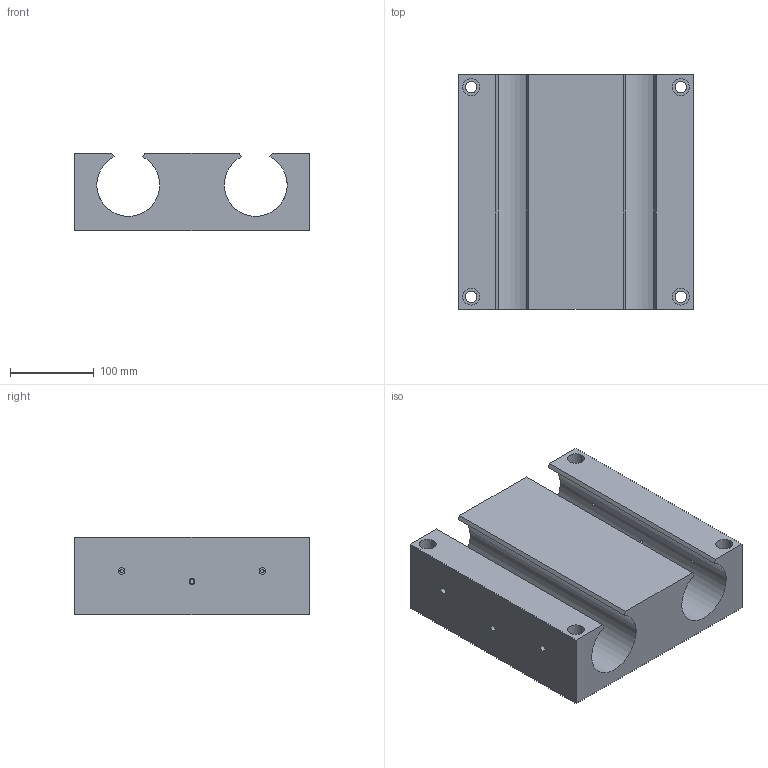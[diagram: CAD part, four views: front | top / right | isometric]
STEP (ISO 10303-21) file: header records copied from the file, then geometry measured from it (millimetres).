
FILE_DESCRIPTION (( 'STEP AP214' ), '1' );
FILE_NAME ('KQSO-50.step', '2020-03-04T13:36:16', ( '' ), ( '' ), 'SwSTEP 2.0', 'SolidWorks 2019', '' );
FILE_SCHEMA (( 'AUTOMOTIVE_DESIGN' ));
Length unit declared in the file: millimetre
Products named in the file (1): KQSO-50
Bounding box: 280 x 280 x 93 mm (x, y, z)
Volume: 4704017.4 mm3; surface area: 358477.9 mm2
Topology: 1 solids, 1 shells, 84 faces, 198 edges, 127 vertices
Faces by surface type: cylinder 52, plane 24, cone 8
Entity records: 3034 total; most frequent: CARTESIAN_POINT 746, DIRECTION 448, ORIENTED_EDGE 392, EDGE_CURVE 196, AXIS2_PLACEMENT_3D 179, VERTEX_POINT 127, EDGE_LOOP 117, CIRCLE 94
